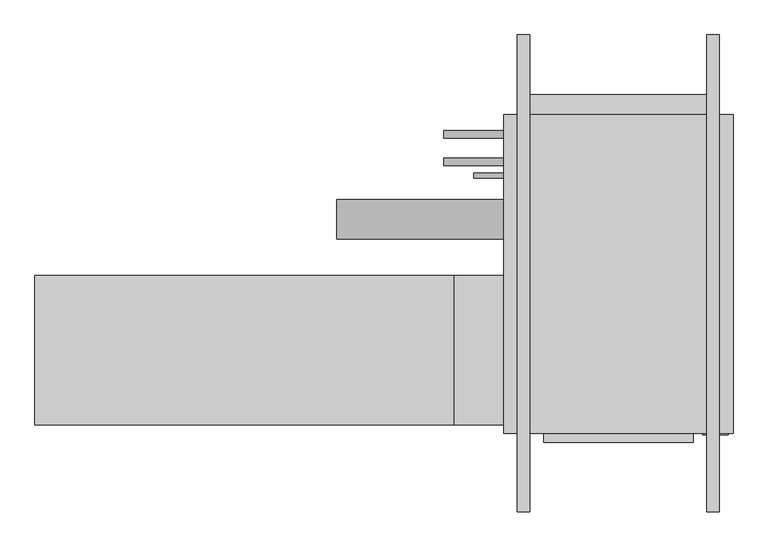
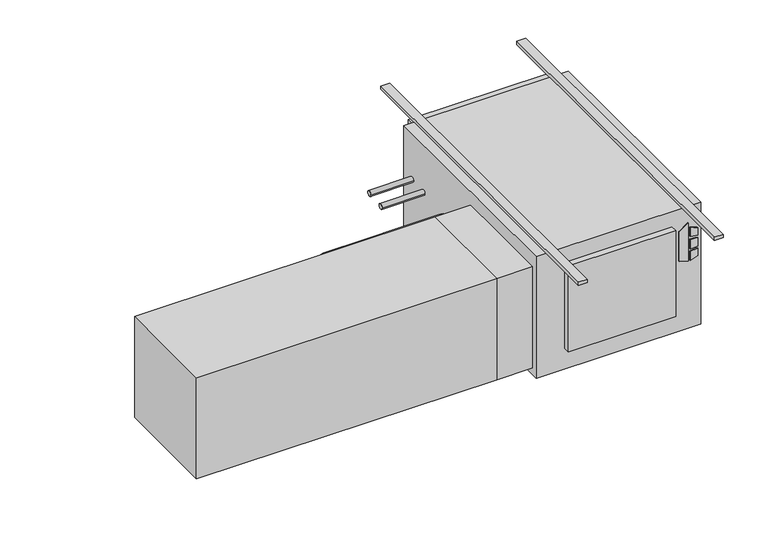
"""IFC4 building model written with IfcOpenShell, lengths in millimetres: proxy geometry."""

import ifcopenshell
import ifcopenshell.guid

model = None  # the IFC model being written
_history = None  # IfcOwnerHistory: only IFC2X3 demands one
_inside = {}  # id of a spatial element -> (the spatial element, [elements in it])
_under = {}  # id of a project, library or spatial element -> (it, [spatial elements below it])
_declared = {}  # id of a project -> (the project, [libraries it declares])
_typed = {}  # id of a type object -> (the type object, [elements of that type])
_made_of = {}  # id of a material, layer set ... -> (it, [elements and type objects made of it])


def new_model(schema):
    """Start an empty IFC model of exactly this schema.

    Asked for "IFC4X3", IfcOpenShell would pick the latest addendum, in which some entities
    have other attributes; the version numbers below select the first issue.
    IFC2X3 requires an IfcOwnerHistory on every rooted entity: one is made here for all.
    """
    global model, _history
    if schema == "IFC4X3":
        model = ifcopenshell.file(schema_version=(4, 3, 0, 0))
    else:
        model = ifcopenshell.file(schema=schema)
    _inside.clear()
    _under.clear()
    _declared.clear()
    _typed.clear()
    _made_of.clear()
    _history = None
    if model.schema == "IFC2X3":
        org = make("IfcOrganization", Name="unknown")
        user = make(
            "IfcPersonAndOrganization",
            ThePerson=make("IfcPerson", FamilyName="unknown"),
            TheOrganization=org,
        )
        app = make(
            "IfcApplication",
            ApplicationDeveloper=org,
            Version="unknown",
            ApplicationFullName="unknown",
            ApplicationIdentifier="unknown",
        )
        _history = make(
            "IfcOwnerHistory",
            OwningUser=user,
            OwningApplication=app,
            ChangeAction="ADDED",
            CreationDate=0,
        )
    return model


def make(cls, **values):
    """One entity of the class cls with the attributes given. An attribute that is None is left unset."""
    return model.create_entity(
        cls, **{name: value for name, value in values.items() if value is not None}
    )


def rooted(cls, **values):
    """An entity with a GlobalId (a new one), such as an element, a storey or a relation."""
    return make(cls, GlobalId=ifcopenshell.guid.new(), OwnerHistory=_history, **values)


def si_unit(unit_type, name, prefix=None):
    """IfcSIUnit, for example si_unit("LENGTHUNIT", "METRE", prefix="MILLI")."""
    return make("IfcSIUnit", UnitType=unit_type, Prefix=prefix, Name=name)


def assignment(units):
    """IfcUnitAssignment: the units of a project."""
    return None if units is None else make("IfcUnitAssignment", Units=units)


def point(xyz):
    """IfcCartesianPoint."""
    return None if xyz is None else make("IfcCartesianPoint", Coordinates=xyz)


def direction(xyz):
    """IfcDirection."""
    return None if xyz is None else make("IfcDirection", DirectionRatios=xyz)


def frame(location, z_axis=None, x_axis=None):
    """IfcAxis2Placement3D, a coordinate frame: its origin and axes. An axis left out is left unset."""
    return make(
        "IfcAxis2Placement3D",
        Location=point(location),
        Axis=direction(z_axis),
        RefDirection=direction(x_axis),
    )


def frame_2d(location, x_axis=None):
    """IfcAxis2Placement2D, a coordinate frame in the plane: its origin and x axis."""
    return make(
        "IfcAxis2Placement2D", Location=point(location), RefDirection=direction(x_axis)
    )


def origin():
    """The frame at (0, 0, 0) with its axes left unset."""
    return frame((0.0, 0.0, 0.0))


def origin_with_axes():
    """The frame at (0, 0, 0) with the z axis (0, 0, 1) and the x axis (1, 0, 0) written out."""
    return frame((0.0, 0.0, 0.0), z_axis=(0.0, 0.0, 1.0), x_axis=(1.0, 0.0, 0.0))


def place(relative_to, where):
    """IfcLocalPlacement: puts the frame where relative to a parent placement (None: the world)."""
    return make(
        "IfcLocalPlacement", PlacementRelTo=relative_to, RelativePlacement=where
    )


def context(
    kind, dimensions, precision=None, world=None, true_north=None, identifier=None
):
    """IfcGeometricRepresentationContext, for example the 3D "Model" context."""
    return make(
        "IfcGeometricRepresentationContext",
        ContextIdentifier=identifier,
        ContextType=kind,
        CoordinateSpaceDimension=dimensions,
        Precision=precision,
        WorldCoordinateSystem=world,
        TrueNorth=true_north,
    )


def project(units=None, contexts=None):
    """IfcProject with its units and contexts."""
    return rooted(
        "IfcProject",
        Name="project",
        RepresentationContexts=contexts,
        UnitsInContext=assignment(units),
    )


def spatial(cls, under=None, at=None, **own):
    """A site, building, storey or space (cls), placed at a placement, below another one or the project."""
    s = rooted(cls, ObjectPlacement=at, **own)
    if under is not None:
        _under.setdefault(under.id(), (under, []))[1].append(s)
    return s


def polyline(points):
    """IfcPolyline through the points."""
    return make("IfcPolyline", Points=[point(p) for p in points])


def circle_curve(where, radius):
    """IfcCircle in the frame where."""
    return make("IfcCircle", Position=where, Radius=radius)


def trimmed(basis, trim1, trim2, sense, master):
    """IfcTrimmedCurve: the piece of a basis curve between two trims."""
    return make(
        "IfcTrimmedCurve",
        BasisCurve=basis,
        Trim1=trim1,
        Trim2=trim2,
        SenseAgreement=sense,
        MasterRepresentation=master,
    )


def segment(curve, same_sense, transition):
    """IfcCompositeCurveSegment."""
    return make(
        "IfcCompositeCurveSegment",
        Transition=transition,
        SameSense=same_sense,
        ParentCurve=curve,
    )


def composite_curve(segments, self_intersect=None):
    """IfcCompositeCurve: segments joined end to end."""
    return make("IfcCompositeCurve", Segments=segments, SelfIntersect=self_intersect)


def outline(outer, holes=None, kind="AREA"):
    """IfcArbitraryClosedProfileDef: a profile drawn as a closed curve; with holes, ...WithVoids."""
    if holes is None:
        return make("IfcArbitraryClosedProfileDef", ProfileType=kind, OuterCurve=outer)
    return make(
        "IfcArbitraryProfileDefWithVoids",
        ProfileType=kind,
        OuterCurve=outer,
        InnerCurves=holes,
    )


def extrude(swept, where, along, depth):
    """IfcExtrudedAreaSolid: the profile swept, set in the frame where, extruded along a direction by depth."""
    return make(
        "IfcExtrudedAreaSolid",
        SweptArea=swept,
        Position=where,
        ExtrudedDirection=direction(along),
        Depth=depth,
    )


def shape(context_of_items, identifier, shape_type, items):
    """IfcShapeRepresentation: the items that make up one representation, for example the "Body"."""
    return make(
        "IfcShapeRepresentation",
        ContextOfItems=context_of_items,
        RepresentationIdentifier=identifier,
        RepresentationType=shape_type,
        Items=items,
    )


def source(mapping_origin, context_of_items, identifier, shape_type, items):
    """IfcRepresentationMap: a shape defined once, which mapped items show again and again."""
    return make(
        "IfcRepresentationMap",
        MappingOrigin=mapping_origin,
        MappedRepresentation=shape(context_of_items, identifier, shape_type, items),
    )


def transform(
    local_origin,
    x_axis=None,
    y_axis=None,
    z_axis=None,
    scale=None,
    scale2=None,
    scale3=None,
    uniform=True,
):
    """IfcCartesianTransformationOperator3D, or its non-uniform kind. x_axis, y_axis, z_axis: its Axis1, 2, 3."""
    if uniform:
        return make(
            "IfcCartesianTransformationOperator3D",
            Axis1=direction(x_axis),
            Axis2=direction(y_axis),
            LocalOrigin=point(local_origin),
            Scale=scale,
            Axis3=direction(z_axis),
        )
    return make(
        "IfcCartesianTransformationOperator3DnonUniform",
        Axis1=direction(x_axis),
        Axis2=direction(y_axis),
        LocalOrigin=point(local_origin),
        Scale=scale,
        Axis3=direction(z_axis),
        Scale2=scale2,
        Scale3=scale3,
    )


def mapped(mapping_source, mapping_target):
    """IfcMappedItem: shows the shape of a source again, moved by a transform."""
    return make(
        "IfcMappedItem", MappingSource=mapping_source, MappingTarget=mapping_target
    )


def made_of(thing, what):
    """Note that an element or type object is made of a material, layer set ...; save() writes the relation."""
    if what is not None:
        _made_of.setdefault(what.id(), (what, []))[1].append(thing)
    return thing


def element(
    cls,
    number,
    at=None,
    inside=None,
    cuts=None,
    type_object=None,
    material=None,
    context=None,
    identifier="Body",
    shape_type=None,
    held_by="IfcProductDefinitionShape",
    body=None,
    shapes=None,
    **own,
):
    """One element of the class cls, such as IfcWall. Its Tag is "e" and its number.

    at: its placement. inside: the storey or other place that contains it. cuts: it is an
    opening in that element (IfcRelVoidsElement). A single representation is given by context,
    identifier, shape_type and body (its items); several are given by shapes. held_by: the class
    of the entity that holds the representations. save() writes the other relations.
    """
    e = rooted(cls, Tag="e%d" % number, ObjectPlacement=at, **own)
    if body is not None:
        shapes = [shape(context, identifier, shape_type, body)]
    if shapes is not None:
        e.Representation = make(held_by, Representations=shapes)
    if inside is not None:
        _inside.setdefault(inside.id(), (inside, []))[1].append(e)
    if cuts is not None:
        rooted(
            "IfcRelVoidsElement", RelatingBuildingElement=cuts, RelatedOpeningElement=e
        )
    if type_object is not None:
        _typed.setdefault(type_object.id(), (type_object, []))[1].append(e)
    return made_of(e, material)


def aggregate(whole, parts):
    """IfcRelAggregates: a whole, such as a stair, and the parts it consists of."""
    return rooted("IfcRelAggregates", RelatingObject=whole, RelatedObjects=parts)


def save(model, path):
    """Write the relations noted so far, then the file.

    IfcRelAggregates (storeys below a building ...), IfcRelContainedInSpatialStructure (elements
    in a storey), IfcRelDefinesByType, IfcRelAssociatesMaterial and IfcRelDeclares: one each for
    every whole, place, type object, material and project.
    """
    for whole, parts in _under.values():
        aggregate(whole, parts)
    for where, things in _inside.values():
        rooted(
            "IfcRelContainedInSpatialStructure",
            RelatedElements=things,
            RelatingStructure=where,
        )
    for kind, things in _typed.values():
        rooted("IfcRelDefinesByType", RelatedObjects=things, RelatingType=kind)
    for what, things in _made_of.values():
        rooted("IfcRelAssociatesMaterial", RelatedObjects=things, RelatingMaterial=what)
    for by, libraries in _declared.values():
        rooted("IfcRelDeclares", RelatingContext=by, RelatedDefinitions=libraries)
    model.write(path)


def mechanical_equipment_5902cffa(model_context):
    return source(origin(), model_context, "Body", "SweptSolid", [
        extrude(outline(polyline([(-193.2519297, 366.7868862), (-203.2, 398.9602728), (-61.0290756, 398.9602728), (-84.0510817, 366.7868862), (-193.2519297, 366.7868862)])), frame((0.0, -647.7, 0.0), z_axis=(0.0, 1.0, 0.0), x_axis=(0.0, 0.0, 1.0)), (0.0, 0.0, 1.0), 3.175),
        extrude(outline(polyline([(-114.2526443, 405.7186058), (-117.4550368, 431.8), (-88.2261958, 431.8), (-80.1617807, 405.7186058), (-114.2526443, 405.7186058)])), frame((0.0, -647.7, 0.0), z_axis=(0.0, 1.0, 0.0), x_axis=(0.0, 0.0, 1.0)), (0.0, 0.0, 1.0), 3.175),
        extrude(outline(polyline([(-166.1161712, 431.8), (-169.7816721, 405.7186058), (-203.2, 405.7186058), (-194.5657628, 431.8), (-166.1161712, 431.8)])), frame((0.0, -647.7, 0.0), z_axis=(0.0, 1.0, 0.0), x_axis=(0.0, 0.0, 1.0)), (0.0, 0.0, 1.0), 3.175),
        extrude(outline(polyline([(-126.8010097, 431.8), (-124.5191834, 405.7186058), (-160.4567319, 405.7186058), (-157.7154669, 431.8), (-126.8010097, 431.8)])), frame((0.0, -647.7, 0.0), z_axis=(0.0, 1.0, 0.0), x_axis=(0.0, 0.0, 1.0)), (0.0, 0.0, 1.0), 3.175),
        extrude(outline(polyline([(342.9, -666.877), (-38.1, -666.877), (-38.1, -644.525), (342.9, -644.525), (342.9, -666.877)])), frame((0.0, 0.0, -381.0), z_axis=(0.0, 0.0, 1.0), x_axis=(1.0, 0.0, 0.0)), (0.0, 0.0, 1.0), 323.85),
        extrude(outline(polyline([(-1333.5, -622.3), (-1333.5, -241.3), (-266.7, -241.3), (-266.7, -622.3), (-1333.5, -622.3)])), frame((0.0, 0.0, -431.8), z_axis=(0.0, 0.0, 1.0), x_axis=(1.0, 0.0, 0.0)), (0.0, 0.0, 1.0), 381.0),
        extrude(outline(polyline([(-139.7, -241.3), (-139.7, -622.3), (-266.7, -622.3), (-266.7, -241.3), (-139.7, -241.3)])), frame((0.0, 0.0, -431.8), z_axis=(0.0, 0.0, 1.0), x_axis=(1.0, 0.0, 0.0)), (0.0, 0.0, 1.0), 381.0),
        extrude(outline(composite_curve([segment(trimmed(circle_curve(frame_2d((-98.4896516, -228.6360165)), 50.8), [point((-149.2896516, -228.6360165))], [point((-47.6896516, -228.6360165))], False, "CARTESIAN"), True, "CONTINUOUS"), segment(trimmed(circle_curve(frame_2d((-98.4896516, -228.6360165)), 50.8), [point((-47.6896516, -228.6360165))], [point((-149.2896516, -228.6360165))], False, "CARTESIAN"), True, "CONTINUOUS")], self_intersect=False)), frame((-565.15, 0.0, 0.0), z_axis=(1.0, 0.0, 0.0), x_axis=(0.0, 1.0, 0.0)), (0.0, 0.0, 1.0), 425.45),
        extrude(outline(composite_curve([segment(trimmed(circle_curve(frame_2d((47.625, -177.8)), 9.525), [point((38.1, -177.8))], [point((57.15, -177.8))], False, "CARTESIAN"), True, "CONTINUOUS"), segment(trimmed(circle_curve(frame_2d((47.625, -177.8)), 9.525), [point((57.15, -177.8))], [point((38.1, -177.8))], False, "CARTESIAN"), True, "CONTINUOUS")], self_intersect=False)), frame((-292.1, 0.0, 0.0), z_axis=(1.0, 0.0, 0.0), x_axis=(0.0, 1.0, 0.0)), (0.0, 0.0, 1.0), 152.4),
        extrude(outline(composite_curve([segment(trimmed(circle_curve(frame_2d((117.475, -171.45)), 9.525), [point((107.95, -171.45))], [point((127.0, -171.45))], False, "CARTESIAN"), True, "CONTINUOUS"), segment(trimmed(circle_curve(frame_2d((117.475, -171.45)), 9.525), [point((127.0, -171.45))], [point((107.95, -171.45))], False, "CARTESIAN"), True, "CONTINUOUS")], self_intersect=False)), frame((-292.1, 0.0, 0.0), z_axis=(1.0, 0.0, 0.0), x_axis=(0.0, 1.0, 0.0)), (0.0, 0.0, 1.0), 152.4),
        extrude(outline(composite_curve([segment(trimmed(circle_curve(frame_2d((12.7, -409.575)), 6.35), [point((6.35, -409.575))], [point((19.05, -409.575))], False, "CARTESIAN"), True, "CONTINUOUS"), segment(trimmed(circle_curve(frame_2d((12.7, -409.575)), 6.35), [point((19.05, -409.575))], [point((6.35, -409.575))], False, "CARTESIAN"), True, "CONTINUOUS")], self_intersect=False)), frame((-215.9, 0.0, 0.0), z_axis=(1.0, 0.0, 0.0), x_axis=(0.0, 1.0, 0.0)), (0.0, 0.0, 1.0), 76.2),
        extrude(outline(polyline([(444.5, 168.275), (444.5, -644.525), (-139.7, -644.525), (-139.7, 168.275), (444.5, 168.275)])), frame((0.0, 0.0, -457.2), z_axis=(0.0, 0.0, 1.0), x_axis=(1.0, 0.0, 0.0)), (0.0, 0.0, 1.0), 457.2),
        extrude(outline(polyline([(-95.25, 219.075), (400.05, 219.075), (400.05, 168.275), (-95.25, 168.275), (-95.25, 219.075)])), frame((0.0, 0.0, -381.0), z_axis=(0.0, 0.0, 1.0), x_axis=(1.0, 0.0, 0.0)), (0.0, 0.0, 1.0), 355.6),
        extrude(outline(polyline([(-73.025, 371.475), (-73.025, -844.677), (-104.775, -844.677), (-104.775, 371.475), (-73.025, 371.475)])), origin_with_axes(), (0.0, 0.0, 1.0), 12.7),
        extrude(outline(polyline([(409.575, 371.475), (409.575, -844.677), (377.825, -844.677), (377.825, 371.475), (409.575, 371.475)])), origin_with_axes(), (0.0, 0.0, 1.0), 12.7),
    ])


if __name__ == "__main__":
    model = new_model("IFC4")
    model_context = context("Model", 3, world=origin())
    ifc_project = project(units=[si_unit("LENGTHUNIT", "METRE", prefix="MILLI")], contexts=[model_context])
    site = spatial("IfcSite", under=ifc_project)
    building = spatial("IfcBuilding", under=site)
    placement = place(None, origin())
    mechanical_equipment_shape = mechanical_equipment_5902cffa(model_context)
    element("IfcBuildingElementProxy", 1, Name="High_Capacity_Horizontal_Cabinet_Fan_Coil_Unit_-_HTY_-_IEC_-_2-Pipe_LH Side_2022 : Size 06 - 115v/60Hz/1Ph - 4/0 Coil - 4\" AirIn", ObjectType="High_Capacity_Horizontal_Cabinet_Fan_Coil_Unit_-_HTY_-_IEC_-_2-Pipe_LH Side_2022 : Size 06 - 115v/60Hz/1Ph - 4/0 Coil - 4\" AirIn", at=placement, inside=building, context=model_context, shape_type="MappedRepresentation", body=[
        mapped(mechanical_equipment_shape, transform((0.0, 0.0, 0.0), x_axis=(1.0, 0.0, 0.0), y_axis=(0.0, 1.0, 0.0), z_axis=(0.0, 0.0, 1.0))),
    ])
    save(model, "model.ifc")
